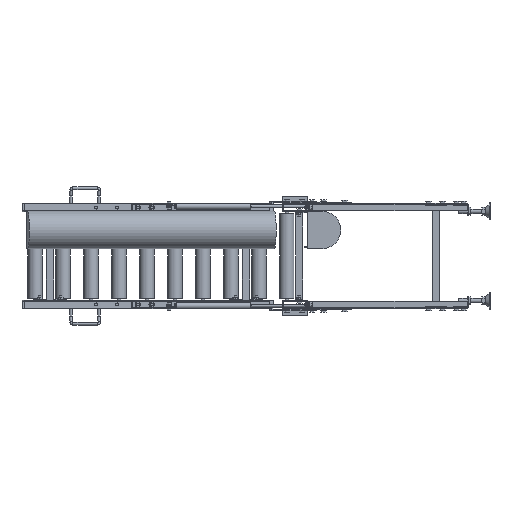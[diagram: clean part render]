
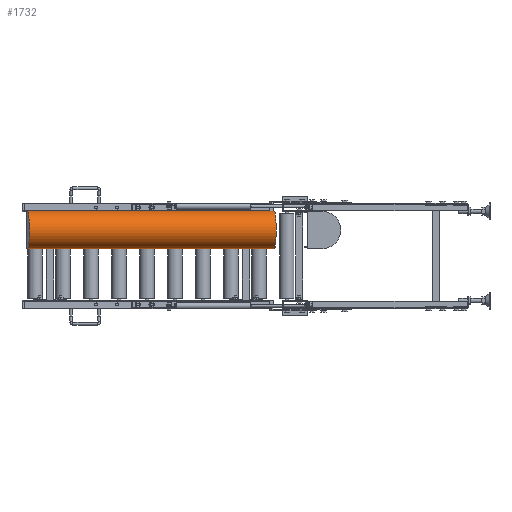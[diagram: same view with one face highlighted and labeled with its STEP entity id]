
A CAD part, left-side view. The second image highlights one B-rep face of the part: STEP entity #1732.
In plain terms, the highlighted cylindrical face has radius 66.89 mm (diameter 133.78 mm), a partial arc.
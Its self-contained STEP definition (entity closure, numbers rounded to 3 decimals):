
#1732=ADVANCED_FACE('',(#12787),#12786,.T.);
#12786=CYLINDRICAL_SURFACE('',#34323,66.89);
#12787=FACE_OUTER_BOUND('',#34324,.T.);
#34320=CARTESIAN_POINT('',(-63.444,-158.438,92.61));
#34321=DIRECTION('',(0.087,-0.996,0.));
#34322=DIRECTION('',(0.,0.,-1.));
#34323=AXIS2_PLACEMENT_3D('',#34320,#34321,#34322);
#34324=EDGE_LOOP('',(#48140,#48141,#48142,#48143));
#48140=ORIENTED_EDGE('',*,*,#58731,.F.);
#48141=ORIENTED_EDGE('',*,*,#58732,.T.);
#48142=ORIENTED_EDGE('',*,*,#58712,.T.);
#48143=ORIENTED_EDGE('',*,*,#58730,.F.);
#58712=EDGE_CURVE('',#79282,#79296,#79303,.T.);
#58730=EDGE_CURVE('',#79418,#79296,#79425,.T.);
#58731=EDGE_CURVE('',#79431,#79418,#79432,.T.);
#58732=EDGE_CURVE('',#79431,#79282,#79438,.T.);
#79282=VERTEX_POINT('',#115722);
#79296=VERTEX_POINT('',#115730);
#79303=CIRCLE('',#115737,66.89);
#79418=VERTEX_POINT('',#115799);
#79425=LINE('',#115803,#115804);
#79431=VERTEX_POINT('',#115806);
#79432=CIRCLE('',#115810,66.89);
#79438=LINE('',#115811,#115812);
#115722=CARTESIAN_POINT('',(-155.735,897.187,159.5));
#115730=CARTESIAN_POINT('',(-155.735,897.187,25.72));
#115734=CARTESIAN_POINT('',(-155.735,897.187,92.61));
#115735=DIRECTION('',(0.087,-0.996,0.));
#115736=DIRECTION('',(0.,0.,-1.));
#115737=AXIS2_PLACEMENT_3D('',#115734,#115735,#115736);
#115799=CARTESIAN_POINT('',(-78.917,18.539,25.72));
#115803=CARTESIAN_POINT('',(-78.917,18.539,25.72));
#115804=VECTOR('',#115805,882.);
#115805=DIRECTION('',(-0.087,0.996,0.));
#115806=CARTESIAN_POINT('',(-78.917,18.539,159.5));
#115807=CARTESIAN_POINT('',(-78.917,18.539,92.61));
#115808=DIRECTION('',(0.087,-0.996,0.));
#115809=DIRECTION('',(0.,0.,1.));
#115810=AXIS2_PLACEMENT_3D('',#115807,#115808,#115809);
#115811=CARTESIAN_POINT('',(-78.917,18.539,159.5));
#115812=VECTOR('',#115813,882.);
#115813=DIRECTION('',(-0.087,0.996,0.));
